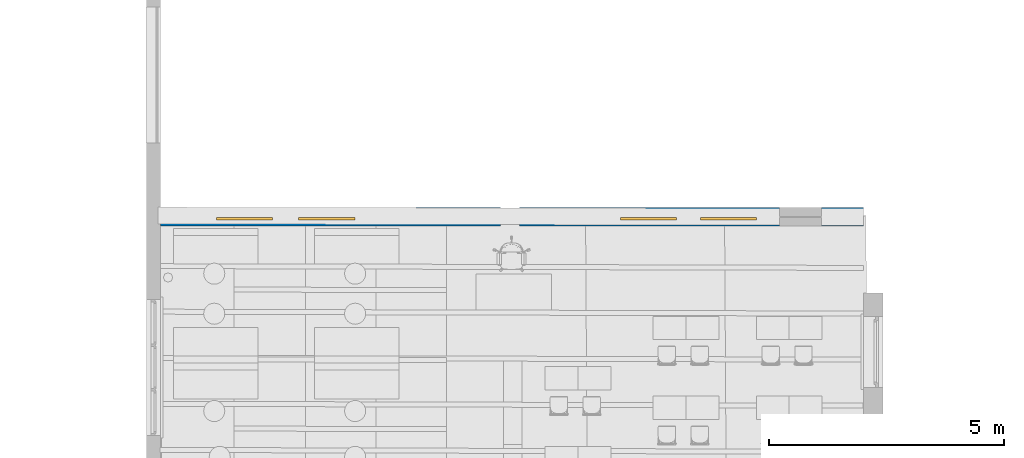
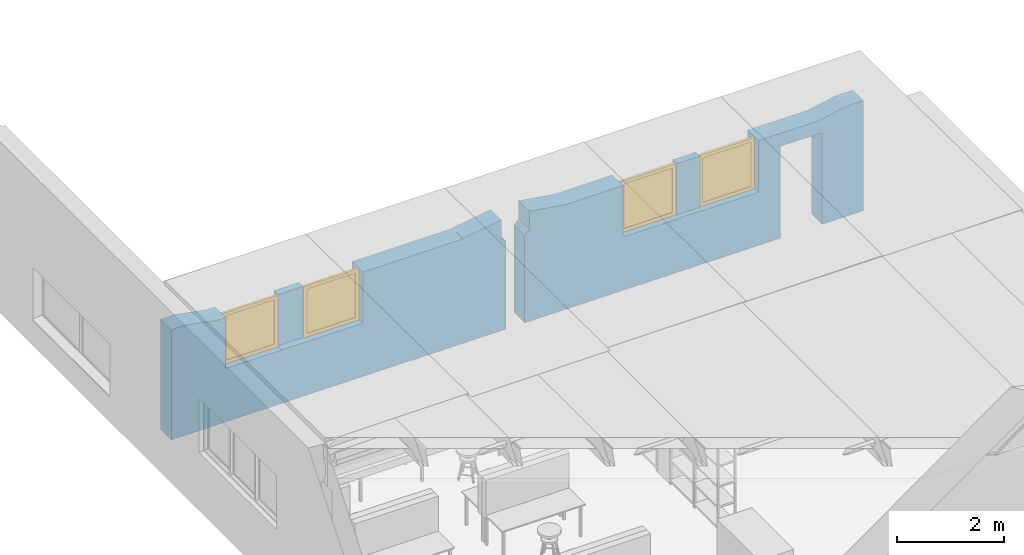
# One storey, part 41 of 153: 4 windows, 1 wall, 14 openings.
"""IFC2X3 building model written with IfcOpenShell, lengths in millimetres."""

from ifc_helpers import new_model, entity, si_unit, converted_unit, derived_unit, money_unit, direction, frame, origin_with_axes, place, context, subcontext, project, spatial, open_shell, faceted_brep, surface_model, source, transform, mapped, material, type_object, element, fill, save


model = new_model("IFC2X3")

# Units and contexts
model_context = context("Model", 3, precision=0.01, world=origin_with_axes(), true_north=direction((0.0, 1.0)))
body_context = subcontext(model_context, "Body", "Model", "MODEL_VIEW")
ifc_project = project(units=[si_unit("LENGTHUNIT", "METRE", prefix="MILLI"), si_unit("AREAUNIT", "SQUARE_METRE"), si_unit("VOLUMEUNIT", "CUBIC_METRE"), converted_unit("PLANEANGLEUNIT", "DEGREE", entity("IfcPlaneAngleMeasure", 0.0174532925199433), si_unit("PLANEANGLEUNIT", "RADIAN"), dimensions=[0, 0, 0, 0, 0, 0, 0]), money_unit("EUR"), converted_unit("TIMEUNIT", "Year", entity("IfcTimeMeasure", 31557600.0), si_unit("TIMEUNIT", "SECOND"), dimensions=[0, 0, 1, 0, 0, 0, 0]), si_unit("MASSUNIT", "GRAM", prefix="KILO"), si_unit("THERMODYNAMICTEMPERATUREUNIT", "DEGREE_CELSIUS"), si_unit("LUMINOUSINTENSITYUNIT", "LUMEN"), si_unit("ENERGYUNIT", "JOULE", prefix="MEGA"), derived_unit("THERMALCONDUCTANCEUNIT", [(si_unit("POWERUNIT", "WATT"), 1), (si_unit("LENGTHUNIT", "METRE"), -1), (si_unit("THERMODYNAMICTEMPERATUREUNIT", "KELVIN"), -1)]), derived_unit("SPECIFICHEATCAPACITYUNIT", [(si_unit("ENERGYUNIT", "JOULE"), 1), (si_unit("MASSUNIT", "GRAM", prefix="KILO"), -1), (si_unit("THERMODYNAMICTEMPERATUREUNIT", "KELVIN"), -1)]), derived_unit("MASSDENSITYUNIT", [(si_unit("MASSUNIT", "GRAM", prefix="KILO"), 1), (si_unit("VOLUMEUNIT", "CUBIC_METRE"), -1)])], contexts=[model_context])

# Site, building, storey
site_placement = place(None, frame((0.0, 0.0, 8650.0), z_axis=(0.0, 0.0, 1.0), x_axis=(1.0, 0.0, 0.0)))
site = spatial("IfcSite", under=ifc_project, at=site_placement, Name="43301:001:0844", CompositionType="ELEMENT")
building_placement = place(site_placement, origin_with_axes())
building = spatial("IfcBuilding", under=site, at=building_placement, Name="Kuressaare Ametikooli tuulikute mehaanikute õppekorpus", CompositionType="ELEMENT")
storey_placement = place(building_placement, frame((0.0, 0.0, 4100.0), z_axis=(0.0, 0.0, 1.0), x_axis=(1.0, 0.0, 0.0)))
storey = spatial("IfcBuildingStorey", under=building, at=storey_placement, Name="2.korrus", CompositionType="ELEMENT", Elevation=4100.0)

# Wall, openings, windows
ifc_material = material(Name="GENEERILINE - KONSTRUKTRIOON")
wall_type = type_object("IfcWallType", Name="GENEERILINE - KONSTRUKTRIOON 400", PredefinedType="NOTDEFINED")
wall_placement = place(storey_placement, frame((103647.5122070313, 37845.7716648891, -539.9999999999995), z_axis=(0.0, 0.0, 1.0), x_axis=(-1.0, 0.0, 0.0)))
wall = element("IfcWall", 1, at=wall_placement, inside=storey, type_object=wall_type, material=ifc_material, context=body_context, shape_type="Brep", body=[
    faceted_brep([(1311.843436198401, -399.9999999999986, 2100.0), (2211.843436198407, -399.9999999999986, 2100.0), (2211.843436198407, -399.9999999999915, 0.0), (7745.463637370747, -399.9999999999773, 0.0), (7745.463637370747, -399.9999999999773, 2002.979557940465), (7645.463637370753, -399.9999999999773, 2105.0), (7645.463637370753, -399.9999999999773, 2520.0), (6879.7762945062, -399.9999999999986, 2400.000000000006), (5618.917236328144, -399.9999999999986, 2400.0), (5618.917236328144, -399.9999999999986, 1230.0), (5598.917160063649, -399.9999999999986, 1230.0), (5598.917160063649, -399.9999999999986, 1219.999999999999), (4398.917160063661, -399.9999999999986, 1219.999999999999), (4398.917160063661, -399.9999999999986, 1230.0), (3893.02541962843, -399.9999999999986, 1230.0), (3893.02541962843, -399.9999999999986, 1219.999999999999), (2693.025419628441, -399.9999999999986, 1219.999999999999), (2693.025419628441, -399.9999999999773, 1230.0), (2693.025332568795, -399.9999999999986, 2400.0), (1411.386286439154, -399.9999999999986, 2400.0), (784.1761884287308, -399.9999999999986, 2519.999999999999), (420.0000000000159, -399.9999999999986, 2519.999999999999), (420.0000000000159, -399.9999999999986, 0.0), (1311.843436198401, -399.9999999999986, 0.0), (2211.843436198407, 0.0, 2100.0), (1311.843436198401, 0.0, 2100.0), (2211.843436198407, 0.0, 0.0), (7745.463637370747, 0.0, 0.0), (7745.463637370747, 0.0, 2002.979557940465), (7645.463637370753, 0.0, 2105.0), (7645.463637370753, 0.0, 2520.0), (6879.7762945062, 0.0, 2400.000000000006), (5618.917236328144, 0.0, 2400.0), (5618.917236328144, 0.0, 1230.0), (5598.917160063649, 0.0, 1230.0), (5598.917160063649, 0.0, 1219.999999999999), (4398.917160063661, 0.0, 1219.999999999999), (4398.917160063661, 0.0, 1230.0), (4398.917160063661, -109.9999999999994, 1230.0), (4398.917160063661, -265.0000000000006, 1230.0), (3893.02541962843, -265.0000000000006, 1230.0), (3893.02541962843, 0.0, 1219.999999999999), (3893.02541962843, -109.9999999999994, 1230.0), (3893.02541962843, 0.0, 1230.0), (2693.025419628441, 0.0, 1219.999999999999), (2693.025419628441, 0.0, 1230.0), (2693.025332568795, 0.0, 2400.0), (1411.386286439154, 0.0, 2400.0), (784.1761884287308, 0.0, 2519.999999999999), (420.0000000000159, 0.0, 2519.999999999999), (420.0000000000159, 0.0, 0.0), (1311.843436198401, 0.0, 0.0), (4398.917236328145, -109.9999999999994, 2400.0), (4398.917236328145, -265.0000000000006, 2400.0), (3893.025332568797, -265.0000000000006, 2400.0), (3893.025332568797, -109.9999999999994, 2400.0)], [[[0, 1, 2, 3, 4, 5, 6, 7, 8, 9, 10, 11, 12, 13, 14, 15, 16, 17, 18, 19, 20, 21, 22, 23]], [[24, 1, 0, 25]], [[26, 2, 1, 24]], [[3, 2, 26, 27]], [[27, 28, 4, 3]], [[5, 4, 28, 29]], [[6, 5, 29, 30]], [[7, 6, 30, 31]], [[7, 31, 32, 8]], [[9, 8, 32, 33]], [[34, 10, 9, 33]], [[34, 35, 11, 10]], [[35, 36, 12, 11]], [[37, 38, 39, 13, 12, 36]], [[39, 40, 14, 13]], [[41, 15, 14, 40, 42, 43]], [[16, 15, 41, 44]], [[17, 16, 44, 45]], [[18, 17, 45, 46]], [[46, 47, 19, 18]], [[19, 47, 48, 20]], [[49, 21, 20, 48]], [[50, 22, 21, 49]], [[50, 51, 23, 22]], [[25, 0, 23, 51]], [[24, 25, 51, 50, 49, 48, 47, 46, 45, 44, 41, 43, 37, 36, 35, 34, 33, 32, 31, 30, 29, 28, 27, 26]], [[38, 37, 43, 42]], [[38, 52, 53, 39]], [[40, 39, 53, 54]], [[54, 55, 42, 40]], [[42, 55, 52, 38]], [[55, 54, 53, 52]]]),
    faceted_brep([(12450.11613820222, -399.9999999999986, 1219.999999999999), (12450.11613820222, 0.0, 1219.999999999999), (12446.86623680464, 0.0, 1219.999999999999), (12446.86623680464, -189.9999999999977, 1219.999999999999), (12446.86623680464, -399.9999999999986, 1219.999999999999), (12450.11613820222, -189.9999999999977, 2389.999999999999), (12450.11613820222, -155.0000000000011, 2389.999999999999), (12450.11613820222, -155.0000000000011, 1220.059533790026), (12450.11613820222, 0.0, 1220.059533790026), (12450.11613820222, -399.9999999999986, 1220.059533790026), (12450.11613820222, -310.0000000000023, 1220.059533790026), (12450.11613820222, -310.0000000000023, 2389.999999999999), (12992.75814056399, 0.0, 1230.0), (13002.75816220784, 0.0, 1230.0), (13002.75816220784, 0.0, 1219.999999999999), (14202.75816220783, 0.0, 1219.999999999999), (14202.75816220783, 0.0, 1230.0), (14212.75814056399, 0.0, 1230.0), (14212.75814056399, 0.0, 2389.999999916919), (14395.95870504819, 0.0, 2389.999999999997), (15078.57672605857, 0.0, 2519.999999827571), (15388.75576019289, 0.0, 2519.999999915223), (15388.75576019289, 0.0, 0.0), (8145.463637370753, 0.0, 0.0), (8145.463637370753, 0.0, 2002.979557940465), (8245.463637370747, 0.0, 2105.0), (8245.463637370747, 0.0, 2520.0), (8322.058590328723, 0.0, 2520.0), (9087.425922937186, 0.0, 2400.000000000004), (9087.425922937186, 0.0, 2390.000000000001), (11246.86623680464, 0.0, 2389.999999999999), (11246.86623680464, 0.0, 1219.999999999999), (11246.86623680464, -399.9999999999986, 1219.999999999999), (13002.75816220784, -399.9999999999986, 1219.999999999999), (13002.75816220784, -399.9999999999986, 1230.0), (12992.75814056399, -399.9999999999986, 1230.0), (11246.86623680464, -399.9999999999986, 2389.999999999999), (9087.425922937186, -399.9999999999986, 2390.000000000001), (9087.425922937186, -399.9999999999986, 2400.000000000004), (8322.058590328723, -399.9999999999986, 2520.0), (8245.463637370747, -399.9999999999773, 2520.0), (8245.463637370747, -399.9999999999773, 2105.0), (8145.463637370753, -399.9999999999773, 2002.979557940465), (8145.463637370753, -399.9999999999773, 0.0), (15388.75576019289, -399.9999999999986, 0.0), (15388.75576019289, -399.9999999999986, 2519.999999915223), (15078.57672605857, -399.9999999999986, 2519.999999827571), (14395.95870504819, -399.9999999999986, 2389.999999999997), (14212.75814056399, -399.9999999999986, 2389.999999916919), (14212.75814056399, -399.9999999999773, 1230.0), (14202.75816220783, -399.9999999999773, 1230.0), (14202.75816220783, -399.9999999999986, 1219.999999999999), (12992.75814056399, -310.0000000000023, 2389.999999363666), (12992.75814056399, -155.0000000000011, 2389.999999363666), (12992.75814056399, -155.0000000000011, 1230.0), (12992.75814056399, -310.0000000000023, 1230.0)], [[[0, 1, 2, 3, 4]], [[5, 6, 7, 8, 1, 0, 9, 10, 11]], [[1, 8, 12, 13, 14, 15, 16, 17, 18, 19, 20, 21, 22, 23, 24, 25, 26, 27, 28, 29, 30, 31, 2]], [[3, 2, 31, 32, 4]], [[33, 34, 35, 9, 0, 4, 32, 36, 37, 38, 39, 40, 41, 42, 43, 44, 45, 46, 47, 48, 49, 50, 51]], [[6, 5, 11, 52, 53]], [[7, 6, 53, 54]], [[8, 7, 54, 12]], [[9, 35, 55, 10]], [[10, 55, 52, 11]], [[13, 12, 54, 55, 35, 34]], [[34, 33, 14, 13]], [[33, 51, 15, 14]], [[51, 50, 16, 15]], [[49, 17, 16, 50]], [[49, 48, 18, 17]], [[47, 19, 18, 48]], [[20, 19, 47, 46]], [[45, 21, 20, 46]], [[21, 45, 44, 22]], [[44, 43, 23, 22]], [[23, 43, 42, 24]], [[25, 24, 42, 41]], [[26, 25, 41, 40]], [[27, 26, 40, 39]], [[38, 28, 27, 39]], [[29, 28, 38, 37]], [[30, 29, 37, 36]], [[31, 30, 36, 32]], [[52, 55, 54, 53]]]),
])
opening_1_placement = place(wall_placement, frame((13602.75814056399, 0.0, 1230.0), z_axis=(0.0, 0.0, 1.0), x_axis=(1.0, 0.0, 0.0)))
element("IfcOpeningElement", 2, at=opening_1_placement, cuts=wall, Name="SA-XX", context=body_context, shape_type="Brep", body=[
    faceted_brep([(609.9999999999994, -189.9999999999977, 1170.0), (-609.9999999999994, -189.9999999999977, 1170.0), (-609.9999999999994, -400.9999999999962, 1170.0), (609.9999999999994, -400.9999999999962, 1170.0), (609.9999999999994, 0.9999999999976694, 1170.0), (-609.9999999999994, 0.9999999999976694, 1170.0), (-609.9999999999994, -189.9999999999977, 0.0), (-609.9999999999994, -400.9999999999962, 0.0), (609.9999999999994, -400.9999999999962, 0.0), (609.9999999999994, -189.9999999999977, 0.0), (609.9999999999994, 0.9999999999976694, 0.0), (-609.9999999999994, 0.9999999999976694, 0.0)], [[[0, 1, 2, 3]], [[1, 0, 4, 5]], [[1, 6, 7, 2]], [[7, 8, 3, 2]], [[9, 0, 3, 8]], [[0, 9, 10, 4]], [[4, 10, 11, 5]], [[6, 1, 5, 11]], [[6, 9, 8, 7]], [[9, 6, 11, 10]]]),
])
opening_2_placement = place(wall_placement, frame((11846.86623680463, 0.0, 1219.999999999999), z_axis=(0.0, 0.0, 1.0), x_axis=(1.0, 0.0, 0.0)))
element("IfcOpeningElement", 3, at=opening_2_placement, cuts=wall, Name="SA-XX", context=body_context, shape_type="Brep", body=[
    faceted_brep([(600.0000000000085, -189.9999999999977, 1170.0), (-599.9999999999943, -189.9999999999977, 1170.0), (-599.9999999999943, -400.9999999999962, 1170.0), (600.0000000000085, -400.9999999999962, 1170.0), (600.0000000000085, 0.9999999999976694, 1170.0), (-599.9999999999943, 0.9999999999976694, 1170.0), (-599.9999999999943, -189.9999999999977, 0.0), (-599.9999999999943, -400.9999999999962, 0.0), (600.0000000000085, -400.9999999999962, 0.0), (600.0000000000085, -189.9999999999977, 0.0), (600.0000000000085, 0.9999999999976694, 0.0), (-599.9999999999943, 0.9999999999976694, 0.0)], [[[0, 1, 2, 3]], [[1, 0, 4, 5]], [[1, 6, 7, 2]], [[7, 8, 3, 2]], [[9, 0, 3, 8]], [[0, 9, 10, 4]], [[4, 10, 11, 5]], [[6, 1, 5, 11]], [[6, 9, 8, 7]], [[9, 6, 11, 10]]]),
])
opening_3_placement = place(wall_placement, frame((5008.917236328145, 0.0, 1230.0), z_axis=(0.0, 0.0, 1.0), x_axis=(1.0, 0.0, 0.0)))
element("IfcOpeningElement", 4, at=opening_3_placement, cuts=wall, Name="SA-XX", context=body_context, shape_type="Brep", body=[
    faceted_brep([(609.9999999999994, -179.9999999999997, 1170.0), (-609.9999999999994, -179.9999999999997, 1170.0), (-609.9999999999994, -400.9999999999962, 1170.0), (609.9999999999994, -400.9999999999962, 1170.0), (609.9999999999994, 0.9999999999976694, 1170.0), (-609.9999999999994, 0.9999999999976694, 1170.0), (-609.9999999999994, -179.9999999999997, 0.0), (-609.9999999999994, -400.9999999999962, 0.0), (609.9999999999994, -400.9999999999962, 0.0), (609.9999999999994, -179.9999999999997, 0.0), (609.9999999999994, 0.9999999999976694, 0.0), (-609.9999999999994, 0.9999999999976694, 0.0)], [[[0, 1, 2, 3]], [[1, 0, 4, 5]], [[1, 6, 7, 2]], [[7, 8, 3, 2]], [[9, 0, 3, 8]], [[0, 9, 10, 4]], [[4, 10, 11, 5]], [[6, 1, 5, 11]], [[6, 9, 8, 7]], [[9, 6, 11, 10]]]),
])
opening_4_placement = place(wall_placement, frame((3293.025332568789, 0.0, 1230.0), z_axis=(0.0, 0.0, 1.0), x_axis=(1.0, 0.0, 0.0)))
element("IfcOpeningElement", 5, at=opening_4_placement, cuts=wall, Name="SA-XX", context=body_context, shape_type="Brep", body=[
    faceted_brep([(600.0000000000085, -179.9999999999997, 1170.0), (-599.9999999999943, -179.9999999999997, 1170.0), (-599.9999999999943, -400.9999999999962, 1170.0), (600.0000000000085, -400.9999999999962, 1170.0), (600.0000000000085, 0.9999999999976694, 1170.0), (-599.9999999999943, 0.9999999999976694, 1170.0), (-599.9999999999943, -179.9999999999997, 0.0), (-599.9999999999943, -400.9999999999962, 0.0), (600.0000000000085, -400.9999999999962, 0.0), (600.0000000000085, -179.9999999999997, 0.0), (600.0000000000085, 0.9999999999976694, 0.0), (-599.9999999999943, 0.9999999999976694, 0.0)], [[[0, 1, 2, 3]], [[1, 0, 4, 5]], [[1, 6, 7, 2]], [[7, 8, 3, 2]], [[9, 0, 3, 8]], [[0, 9, 10, 4]], [[4, 10, 11, 5]], [[6, 1, 5, 11]], [[6, 9, 8, 7]], [[9, 6, 11, 10]]]),
])
opening_5_placement = place(wall_placement, frame((13602.75816220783, 0.0, 1219.999999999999), z_axis=(0.0, 0.0, 1.0), x_axis=(1.0, 0.0, 0.0)))
opening_5 = element("IfcOpeningElement", 6, at=opening_5_placement, cuts=wall, Name="SA-05,EI60", context=body_context, shape_type="Brep", body=[
    faceted_brep([(599.9999999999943, -189.9999999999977, 0.0), (599.9999999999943, -189.9999999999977, 1170.0), (599.9999999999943, -400.9999999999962, 1170.0), (599.9999999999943, -400.9999999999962, 0.0), (599.9999999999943, 0.9999999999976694, 0.0), (599.9999999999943, 0.9999999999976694, 1170.0), (-599.9999999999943, -189.9999999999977, 1170.0), (-599.9999999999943, -400.9999999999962, 1170.0), (-599.9999999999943, 0.9999999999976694, 1170.0), (-599.9999999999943, -400.9999999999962, 0.0), (-599.9999999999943, -189.9999999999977, 0.0), (-599.9999999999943, 0.9999999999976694, 0.0)], [[[0, 1, 2, 3]], [[1, 0, 4, 5]], [[6, 7, 2, 1, 5, 8]], [[7, 9, 3, 2]], [[0, 3, 9, 10, 11, 4]], [[5, 4, 11, 8]], [[6, 10, 9, 7]], [[10, 6, 8, 11]]]),
])
opening_6_placement = place(wall_placement, frame((11850.11613820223, 0.0, 1219.999999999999), z_axis=(0.0, 0.0, 1.0), x_axis=(1.0, 0.0, 0.0)))
opening_6 = element("IfcOpeningElement", 7, at=opening_6_placement, cuts=wall, Name="SA-05,EI60", context=body_context, shape_type="Brep", body=[
    faceted_brep([(599.9999999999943, -189.9999999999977, 0.0), (599.9999999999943, -189.9999999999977, 1170.0), (599.9999999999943, -400.9999999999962, 1170.0), (599.9999999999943, -400.9999999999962, 0.0), (599.9999999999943, 0.9999999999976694, 0.0), (599.9999999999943, 0.9999999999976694, 1170.0), (-599.9999999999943, -189.9999999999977, 1170.0), (-599.9999999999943, -400.9999999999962, 1170.0), (-599.9999999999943, 0.9999999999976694, 1170.0), (-599.9999999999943, -400.9999999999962, 0.0), (-599.9999999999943, -189.9999999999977, 0.0), (-599.9999999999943, 0.9999999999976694, 0.0)], [[[0, 1, 2, 3]], [[1, 0, 4, 5]], [[6, 7, 2, 1, 5, 8]], [[7, 9, 3, 2]], [[0, 3, 9, 10, 11, 4]], [[5, 4, 11, 8]], [[6, 10, 9, 7]], [[10, 6, 8, 11]]]),
])
opening_7_placement = place(wall_placement, frame((3293.025419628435, 0.0, 1219.999999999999), z_axis=(0.0, 0.0, 1.0), x_axis=(1.0, 0.0, 0.0)))
opening_7 = element("IfcOpeningElement", 8, at=opening_7_placement, cuts=wall, Name="SA-05,EI60", context=body_context, shape_type="Brep", body=[
    faceted_brep([(599.9999999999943, -189.9999999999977, 0.0), (599.9999999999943, -189.9999999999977, 1170.0), (599.9999999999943, -400.9999999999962, 1170.0), (599.9999999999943, -400.9999999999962, 0.0), (599.9999999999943, 0.9999999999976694, 0.0), (599.9999999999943, 0.9999999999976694, 1170.0), (-599.9999999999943, -189.9999999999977, 1170.0), (-599.9999999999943, -400.9999999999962, 1170.0), (-599.9999999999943, 0.9999999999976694, 1170.0), (-599.9999999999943, -400.9999999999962, 0.0), (-599.9999999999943, -189.9999999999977, 0.0), (-599.9999999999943, 0.9999999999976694, 0.0)], [[[0, 1, 2, 3]], [[1, 0, 4, 5]], [[6, 7, 2, 1, 5, 8]], [[7, 9, 3, 2]], [[0, 3, 9, 10, 11, 4]], [[5, 4, 11, 8]], [[6, 10, 9, 7]], [[10, 6, 8, 11]]]),
])
opening_8_placement = place(wall_placement, frame((4998.917160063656, 0.0, 1219.999999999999), z_axis=(0.0, 0.0, 1.0), x_axis=(1.0, 0.0, 0.0)))
opening_8 = element("IfcOpeningElement", 9, at=opening_8_placement, cuts=wall, Name="SA-05,EI60", context=body_context, shape_type="Brep", body=[
    faceted_brep([(599.9999999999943, -189.9999999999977, 0.0), (599.9999999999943, -189.9999999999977, 1170.0), (599.9999999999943, -400.9999999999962, 1170.0), (599.9999999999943, -400.9999999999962, 0.0), (599.9999999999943, 0.9999999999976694, 0.0), (599.9999999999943, 0.9999999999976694, 1170.0), (-599.9999999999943, -189.9999999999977, 1170.0), (-599.9999999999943, -400.9999999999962, 1170.0), (-599.9999999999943, 0.9999999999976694, 1170.0), (-599.9999999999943, -400.9999999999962, 0.0), (-599.9999999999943, -189.9999999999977, 0.0), (-599.9999999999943, 0.9999999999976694, 0.0)], [[[0, 1, 2, 3]], [[1, 0, 4, 5]], [[6, 7, 2, 1, 5, 8]], [[7, 9, 3, 2]], [[0, 3, 9, 10, 11, 4]], [[5, 4, 11, 8]], [[6, 10, 9, 7]], [[10, 6, 8, 11]]]),
])
opening_9_placement = place(wall_placement, frame((1761.843436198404, 0.0, 0.0), z_axis=(0.0, 0.0, 1.0), x_axis=(1.0, 0.0, 0.0)))
element("IfcOpeningElement", 10, at=opening_9_placement, cuts=wall, Name="ava", context=body_context, shape_type="Brep", body=[
    faceted_brep([(450.0000000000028, 0.9999999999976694, 2100.0), (450.0000000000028, 0.9999999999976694, 0.0), (-450.0000000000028, 0.9999999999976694, 0.0), (-450.0000000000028, 0.9999999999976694, 2100.0), (450.0000000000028, -400.9999999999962, 2100.0), (450.0000000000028, -400.9999999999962, 0.0), (-450.0000000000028, -400.9999999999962, 0.0), (-450.0000000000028, -400.9999999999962, 2100.0)], [[[0, 1, 2, 3]], [[4, 5, 1, 0]], [[5, 6, 2, 1]], [[6, 7, 3, 2]], [[7, 4, 0, 3]], [[6, 5, 4, 7]]]),
])
opening_10_placement = place(wall_placement, frame((103647.5122070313, 37845.77166488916, -3560.0), z_axis=(0.0, 0.0, 1.0), x_axis=(-1.0, 0.0, 0.0)))
element("IfcOpeningElement", 11, at=opening_10_placement, cuts=wall, Name="ava", context=body_context, shape_type="Brep", body=[
    faceted_brep([(91200.64597022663, 38155.77166488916, 4779.999999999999), (90654.75406646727, 38155.77166488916, 4790.0), (90654.75406646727, 38645.77166488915, 4790.0), (91200.64597022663, 38645.77166488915, 4779.999999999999), (91200.64597022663, 38155.77166488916, 5949.999999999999), (90654.4427777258, 38155.77166488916, 5949.999999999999), (90654.4427777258, 38645.77166488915, 5949.999999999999), (91200.64597022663, 38645.77166488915, 5949.999999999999)], [[[0, 1, 2, 3]], [[0, 4, 5, 1]], [[1, 5, 6, 2]], [[3, 2, 6, 7]], [[4, 0, 3, 7]], [[5, 4, 7, 6]]]),
])
opening_11_placement = place(wall_placement, frame((103647.5122070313, 37845.77166488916, -3560.0), z_axis=(0.0, 0.0, 1.0), x_axis=(-1.0, 0.0, 0.0)))
element("IfcOpeningElement", 12, at=opening_11_placement, cuts=wall, Name="ava", context=body_context, shape_type="Brep", body=[
    faceted_brep([(91200.64597022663, 38000.77166488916, 4779.999999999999), (91200.64597022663, 38000.77166488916, 5949.999999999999), (91200.64597022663, 37445.77166488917, 5949.999999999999), (91200.64597022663, 37445.77166488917, 4779.999999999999), (90654.75406646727, 38000.77166488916, 4790.0), (90654.75406646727, 38000.77166488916, 5949.999999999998), (90654.75406646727, 37445.77166488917, 5949.999999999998), (90654.75406646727, 37445.77166488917, 4790.0)], [[[0, 1, 2, 3]], [[0, 4, 5, 1]], [[1, 5, 6, 2]], [[3, 2, 6, 7]], [[4, 0, 3, 7]], [[5, 4, 7, 6]]]),
])
opening_12_placement = place(wall_placement, frame((103647.5122070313, 37845.77166488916, -3560.0), z_axis=(0.0, 0.0, 1.0), x_axis=(-1.0, 0.0, 0.0)))
element("IfcOpeningElement", 13, at=opening_12_placement, cuts=wall, Name="ava", context=body_context, shape_type="Brep", body=[
    faceted_brep([(99754.48687446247, 37955.77166488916, 4790.0), (99754.48687446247, 37955.77166488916, 5960.0), (99754.48687446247, 37445.77166488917, 5960.0), (99754.48687446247, 37445.77166488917, 4790.0), (99248.59497070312, 37955.77166488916, 4790.0), (99248.59497070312, 37955.77166488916, 5960.0), (99248.59497070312, 37445.77166488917, 5960.0), (99248.59497070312, 37445.77166488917, 4790.0)], [[[0, 1, 2, 3]], [[0, 4, 5, 1]], [[1, 5, 6, 2]], [[3, 2, 6, 7]], [[4, 0, 3, 7]], [[5, 4, 7, 6]]]),
])
opening_13_placement = place(wall_placement, frame((103647.5122070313, 37845.77166488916, -3560.0), z_axis=(0.0, 0.0, 1.0), x_axis=(-1.0, 0.0, 0.0)))
element("IfcOpeningElement", 14, at=opening_13_placement, cuts=wall, Name="ava", context=body_context, shape_type="Brep", body=[
    faceted_brep([(103227.5122070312, 38645.77166488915, 6079.999999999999), (103607.7407021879, 38645.77166488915, 6079.999999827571), (103607.7407021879, 37445.77166488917, 6079.999999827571), (103227.5122070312, 37445.77166488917, 6079.999999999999), (102863.3360186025, 38645.77166488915, 6079.999999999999), (102236.1259205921, 38645.77166488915, 5960.0), (96767.73591252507, 38645.77166488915, 5960.000000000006), (96002.04856966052, 38645.77166488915, 6080.0), (95325.45361670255, 38645.77166488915, 6080.0), (94560.08628409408, 38645.77166488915, 5960.000000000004), (94560.08628409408, 38645.77166488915, 5950.000000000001), (89251.55350198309, 38645.77166488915, 5949.999999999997), (88568.9354809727, 38645.77166488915, 6079.999999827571), (88167.63004443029, 38645.77166488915, 6088.037963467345), (88167.63004443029, 38645.77166488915, 6675.541407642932), (103595.9442622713, 38645.77166488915, 6675.541407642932), (103595.9442622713, 37445.77166488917, 6675.541407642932), (88167.63004443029, 37445.77166488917, 6675.541407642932), (88167.63004443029, 37445.77166488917, 6088.037963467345), (88568.9354809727, 37445.77166488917, 6079.999999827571), (89251.55350198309, 37445.77166488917, 5949.999999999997), (94560.08628409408, 37445.77166488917, 5950.000000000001), (94560.08628409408, 37445.77166488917, 5960.000000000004), (95325.45361670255, 37445.77166488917, 6080.0), (96002.04856966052, 37445.77166488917, 6080.0), (96767.73591252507, 37445.77166488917, 5960.000000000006), (102236.1259205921, 37445.77166488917, 5960.0), (102863.3360186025, 37445.77166488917, 6079.999999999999)], [[[0, 1, 2, 3]], [[0, 4, 5, 6, 7, 8, 9, 10, 11, 12, 13, 14, 15, 1]], [[1, 15, 16, 2]], [[3, 2, 16, 17, 18, 19, 20, 21, 22, 23, 24, 25, 26, 27]], [[4, 0, 3, 27]], [[5, 4, 27, 26]], [[6, 5, 26, 25]], [[7, 6, 25, 24]], [[8, 7, 24, 23]], [[9, 8, 23, 22]], [[10, 9, 22, 21]], [[11, 10, 21, 20]], [[12, 11, 20, 19]], [[13, 12, 19, 18]], [[14, 13, 18, 17]], [[15, 14, 17, 16]]]),
])
opening_14_placement = place(wall_placement, frame((103647.5122070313, 37845.77166488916, -3560.0), z_axis=(0.0, 0.0, 1.0), x_axis=(-1.0, 0.0, 0.0)))
element("IfcOpeningElement", 15, at=opening_14_placement, cuts=wall, Name="ava", context=body_context, shape_type="Brep", body=[
    faceted_brep([(99754.48687446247, 38110.77166488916, 4789.999999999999), (99248.59497070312, 38110.77166488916, 4789.999999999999), (99248.59497070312, 38645.77166488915, 4789.999999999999), (99754.48687446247, 38645.77166488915, 4789.999999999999), (99754.48687446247, 38110.77166488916, 5959.999999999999), (99248.59497070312, 38110.77166488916, 5959.999999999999), (99248.59497070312, 38645.77166488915, 5959.999999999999), (99754.48687446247, 38645.77166488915, 5959.999999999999)], [[[0, 1, 2, 3]], [[0, 4, 5, 1]], [[1, 5, 6, 2]], [[3, 2, 6, 7]], [[4, 0, 3, 7]], [[5, 4, 7, 6]]]),
])
window_style = type_object("IfcWindowStyle", Name="Window 27", ConstructionType="NOTDEFINED", OperationType="SINGLE_PANEL", ParameterTakesPrecedence=False, Sizeable=False)
shared_shape = source(origin_with_axes(), body_context, "Body", "SurfaceModel", [
    faceted_brep([(524.9999999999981, -55.00000000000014, 1095.0), (599.999999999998, -55.00000000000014, 1095.0), (599.999999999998, 0.0, 1095.0), (524.9999999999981, 0.0, 1095.0), (524.9999999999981, -55.00000000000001, 75.0), (599.999999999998, -55.00000000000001, 75.0), (599.999999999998, 0.0, 75.0), (524.9999999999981, 0.0, 75.0)], [[[0, 1, 2, 3]], [[0, 4, 5, 1]], [[1, 5, 6, 2]], [[3, 2, 6, 7]], [[4, 0, 3, 7]], [[5, 4, 7, 6]]]),
    faceted_brep([(-524.9999999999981, -55.00000000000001, 75.0), (-599.999999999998, -55.00000000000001, 75.0), (-599.999999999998, 0.0, 75.0), (-524.9999999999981, 0.0, 75.0), (-524.9999999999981, -55.00000000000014, 1095.0), (-599.999999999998, -55.00000000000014, 1095.0), (-599.999999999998, 0.0, 1095.0), (-524.9999999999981, 0.0, 1095.0)], [[[0, 1, 2, 3]], [[0, 4, 5, 1]], [[1, 5, 6, 2]], [[3, 2, 6, 7]], [[4, 0, 3, 7]], [[5, 4, 7, 6]]]),
    faceted_brep([(524.9999999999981, -55.00000000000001, 75.0), (599.999999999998, -55.00000000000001, 75.0), (599.999999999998, 0.0, 75.0), (524.9999999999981, 0.0, 75.0), (-524.9999999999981, -55.00000000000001, 75.0), (-599.999999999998, -55.00000000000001, 75.0), (-599.999999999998, -55.0, 0.0), (599.999999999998, -55.0, 0.0), (599.999999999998, 0.0, 0.0), (-599.999999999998, 0.0, 0.0), (-599.999999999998, 0.0, 75.0), (-524.9999999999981, 0.0, 75.0)], [[[0, 1, 2, 3]], [[0, 4, 5, 6, 7, 1]], [[1, 7, 8, 2]], [[3, 2, 8, 9, 10, 11]], [[4, 0, 3, 11]], [[5, 4, 11, 10]], [[6, 5, 10, 9]], [[7, 6, 9, 8]]]),
    faceted_brep([(-524.9999999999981, -55.00000000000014, 1095.0), (-599.999999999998, -55.00000000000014, 1095.0), (-599.999999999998, 0.0, 1095.0), (-524.9999999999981, 0.0, 1095.0), (524.9999999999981, -55.00000000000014, 1095.0), (599.999999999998, -55.00000000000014, 1095.0), (599.999999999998, -55.00000000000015, 1170.0), (-599.999999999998, -55.00000000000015, 1170.0), (-599.999999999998, 0.0, 1170.0), (599.999999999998, 0.0, 1170.0), (599.999999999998, 0.0, 1095.0), (524.9999999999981, 0.0, 1095.0)], [[[0, 1, 2, 3]], [[0, 4, 5, 6, 7, 1]], [[1, 7, 8, 2]], [[3, 2, 8, 9, 10, 11]], [[4, 0, 3, 11]], [[5, 4, 11, 10]], [[6, 5, 10, 9]], [[7, 6, 9, 8]]]),
    surface_model("IfcShellBasedSurfaceModel", [(524.9999999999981, -35.00000000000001, 75.00000000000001), (524.9999999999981, -35.00000000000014, 1095.0), (-524.9999999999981, -35.00000000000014, 1095.0), (-524.9999999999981, -35.00000000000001, 75.00000000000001)], [open_shell([[[0, 1, 2, 3]]])]),
    surface_model("IfcShellBasedSurfaceModel", [(524.9999999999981, -15.00000000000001, 75.00000000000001), (-524.9999999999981, -15.00000000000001, 75.00000000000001), (-524.9999999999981, -15.00000000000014, 1095.0), (524.9999999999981, -15.00000000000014, 1095.0)], [open_shell([[[0, 1, 2, 3]]])]),
])
window_1_placement = place(opening_5_placement, frame((-599.9999999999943, 0.0, 0.0), z_axis=(0.0, 0.0, 1.0), x_axis=(1.0, 0.0, 0.0)))
window_1 = element("IfcWindow", 16, at=window_1_placement, inside=storey, type_object=window_style, Name="SA-05,EI60", OverallHeight=1170.0, OverallWidth=1200.0, context=body_context, shape_type="MappedRepresentation", body=[
    mapped(shared_shape, transform((599.9999999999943, -134.999999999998, 0.0))),
])
fill(opening_5, window_1)
window_2_placement = place(opening_6_placement, frame((-599.9999999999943, 0.0, 0.0), z_axis=(0.0, 0.0, 1.0), x_axis=(1.0, 0.0, 0.0)))
window_2 = element("IfcWindow", 17, at=window_2_placement, inside=storey, type_object=window_style, Name="SA-05,EI60", OverallHeight=1170.0, OverallWidth=1200.0, context=body_context, shape_type="MappedRepresentation", body=[
    mapped(shared_shape, transform((599.9999999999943, -134.999999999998, 0.0))),
])
fill(opening_6, window_2)
window_3_placement = place(opening_7_placement, frame((-599.9999999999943, 0.0, 0.0), z_axis=(0.0, 0.0, 1.0), x_axis=(1.0, 0.0, 0.0)))
window_3 = element("IfcWindow", 18, at=window_3_placement, inside=storey, type_object=window_style, Name="SA-05,EI60", OverallHeight=1170.0, OverallWidth=1200.0, context=body_context, shape_type="MappedRepresentation", body=[
    mapped(shared_shape, transform((599.9999999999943, -134.999999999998, 0.0))),
])
fill(opening_7, window_3)
window_4_placement = place(opening_8_placement, frame((-599.9999999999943, 0.0, 0.0), z_axis=(0.0, 0.0, 1.0), x_axis=(1.0, 0.0, 0.0)))
window_4 = element("IfcWindow", 19, at=window_4_placement, inside=storey, type_object=window_style, Name="SA-05,EI60", OverallHeight=1170.0, OverallWidth=1200.0, context=body_context, shape_type="MappedRepresentation", body=[
    mapped(shared_shape, transform((599.9999999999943, -134.999999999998, 0.0))),
])
fill(opening_8, window_4)

save(model, "model.ifc")
